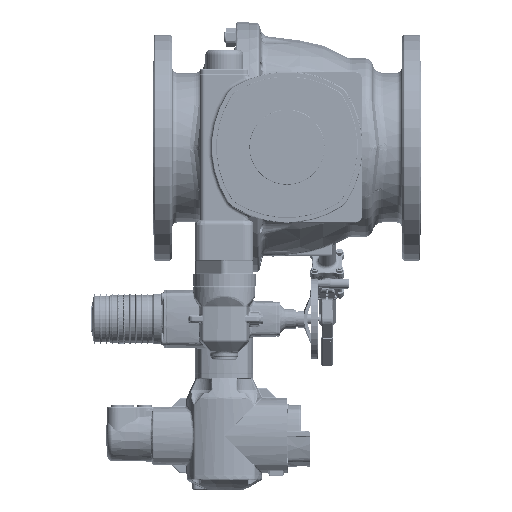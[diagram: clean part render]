
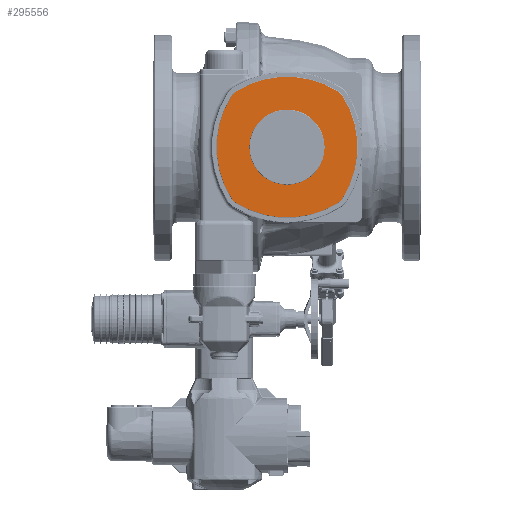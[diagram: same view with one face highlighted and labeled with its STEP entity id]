
A CAD part, top view. The second image highlights one B-rep face of the part: STEP entity #295556.
In plain terms, the highlighted planar face has unit normal (0, 0, 1).
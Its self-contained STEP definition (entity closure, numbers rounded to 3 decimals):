
#237321=CARTESIAN_POINT('',(0.,-50.,173.));
#237322=DIRECTION('',(0.,0.,-1.));
#237323=DIRECTION('',(-0.533,0.846,0.));
#237324=AXIS2_PLACEMENT_3D('',#237321,#237322,#237323);
#237335=CARTESIAN_POINT('',(85.34,85.34,173.));
#237336=DIRECTION('',(0.,0.,1.));
#237337=DIRECTION('',(0.846,0.533,0.));
#237338=AXIS2_PLACEMENT_3D('',#237335,#237336,#237337);
#237349=CARTESIAN_POINT('',(-50.,0.,173.));
#237350=DIRECTION('',(0.,0.,-1.));
#237351=DIRECTION('',(0.846,0.533,0.));
#237352=AXIS2_PLACEMENT_3D('',#237349,#237350,#237351);
#237363=CARTESIAN_POINT('',(85.34,-85.34,173.));
#237364=DIRECTION('',(0.,0.,1.));
#237365=DIRECTION('',(0.533,-0.846,0.));
#237366=AXIS2_PLACEMENT_3D('',#237363,#237364,#237365);
#237377=CARTESIAN_POINT('',(0.,50.,173.));
#237378=DIRECTION('',(0.,0.,-1.));
#237379=DIRECTION('',(0.533,-0.846,0.));
#237380=AXIS2_PLACEMENT_3D('',#237377,#237378,#237379);
#237391=CARTESIAN_POINT('',(-85.34,-85.34,173.));
#237392=DIRECTION('',(0.,0.,1.));
#237393=DIRECTION('',(-0.846,-0.533,0.));
#237394=AXIS2_PLACEMENT_3D('',#237391,#237392,#237393);
#237405=CARTESIAN_POINT('',(50.,0.,173.));
#237406=DIRECTION('',(0.,0.,-1.));
#237407=DIRECTION('',(-0.846,-0.533,0.));
#237408=AXIS2_PLACEMENT_3D('',#237405,#237406,#237407);
#237419=CARTESIAN_POINT('',(-85.34,85.34,173.));
#237420=DIRECTION('',(0.,0.,1.));
#237421=DIRECTION('',(-0.533,0.846,0.));
#237422=AXIS2_PLACEMENT_3D('',#237419,#237420,#237421);
#237424=CARTESIAN_POINT('',(0.,0.,173.));
#237425=DIRECTION('',(0.,0.,1.));
#237426=DIRECTION('',(-1.,0.,0.));
#237427=AXIS2_PLACEMENT_3D('',#237424,#237425,#237426);
#237429=CARTESIAN_POINT('',(0.,0.,173.));
#237430=DIRECTION('',(0.,0.,1.));
#237431=DIRECTION('',(1.,0.,0.));
#237432=AXIS2_PLACEMENT_3D('',#237429,#237430,#237431);
#285292=CARTESIAN_POINT('',(-75.,0.,173.));
#285293=CARTESIAN_POINT('',(75.,0.,173.));
#285294=VERTEX_POINT('',#285292);
#285295=VERTEX_POINT('',#285293);
#285296=CARTESIAN_POINT('',(101.342,-110.717,173.));
#285297=CARTESIAN_POINT('',(110.717,-101.342,173.));
#285298=VERTEX_POINT('',#285296);
#285299=VERTEX_POINT('',#285297);
#285300=CARTESIAN_POINT('',(110.717,101.342,173.));
#285301=VERTEX_POINT('',#285300);
#285302=CARTESIAN_POINT('',(101.342,110.717,173.));
#285303=VERTEX_POINT('',#285302);
#285304=CARTESIAN_POINT('',(-101.342,110.717,173.));
#285305=VERTEX_POINT('',#285304);
#285306=CARTESIAN_POINT('',(-110.717,101.342,173.));
#285307=VERTEX_POINT('',#285306);
#285308=CARTESIAN_POINT('',(-110.717,-101.342,173.));
#285309=VERTEX_POINT('',#285308);
#285310=CARTESIAN_POINT('',(-101.342,-110.717,173.));
#285311=VERTEX_POINT('',#285310);
#295535=CARTESIAN_POINT('',(0.,0.,173.));
#295536=DIRECTION('',(0.,0.,1.));
#295537=DIRECTION('',(1.,0.,0.));
#295538=AXIS2_PLACEMENT_3D('',#295535,#295536,#295537);
#295539=PLANE('',#295538);
#295540=ORIENTED_EDGE('',*,*,#295474,.F.);
#295541=ORIENTED_EDGE('',*,*,#295488,.T.);
#295542=ORIENTED_EDGE('',*,*,#295502,.F.);
#295543=ORIENTED_EDGE('',*,*,#295516,.T.);
#295544=ORIENTED_EDGE('',*,*,#295529,.F.);
#295545=ORIENTED_EDGE('',*,*,#295431,.T.);
#295546=ORIENTED_EDGE('',*,*,#295446,.F.);
#295547=ORIENTED_EDGE('',*,*,#295460,.T.);
#295548=EDGE_LOOP('',(#295540,#295541,#295542,#295543,#295544,#295545,#295546,
#295547));
#295549=FACE_OUTER_BOUND('',#295548,.F.);
#295551=ORIENTED_EDGE('',*,*,#295550,.T.);
#295553=ORIENTED_EDGE('',*,*,#295552,.T.);
#295554=EDGE_LOOP('',(#295551,#295553));
#295555=FACE_BOUND('',#295554,.F.);
#295556=ADVANCED_FACE('',(#295549,#295555),#295539,.T.);
#237325=CIRCLE('',#237324,190.);
#237339=CIRCLE('',#237338,30.);
#237353=CIRCLE('',#237352,190.);
#237367=CIRCLE('',#237366,30.);
#237381=CIRCLE('',#237380,190.);
#237395=CIRCLE('',#237394,30.);
#237409=CIRCLE('',#237408,190.);
#237423=CIRCLE('',#237422,30.);
#237428=CIRCLE('',#237427,75.);
#237433=CIRCLE('',#237432,75.);
#295431=EDGE_CURVE('',#285305,#285303,#237325,.T.);
#295446=EDGE_CURVE('',#285301,#285303,#237339,.T.);
#295460=EDGE_CURVE('',#285301,#285299,#237353,.T.);
#295474=EDGE_CURVE('',#285298,#285299,#237367,.T.);
#295488=EDGE_CURVE('',#285298,#285311,#237381,.T.);
#295502=EDGE_CURVE('',#285309,#285311,#237395,.T.);
#295516=EDGE_CURVE('',#285309,#285307,#237409,.T.);
#295529=EDGE_CURVE('',#285305,#285307,#237423,.T.);
#295550=EDGE_CURVE('',#285294,#285295,#237428,.T.);
#295552=EDGE_CURVE('',#285295,#285294,#237433,.T.);
